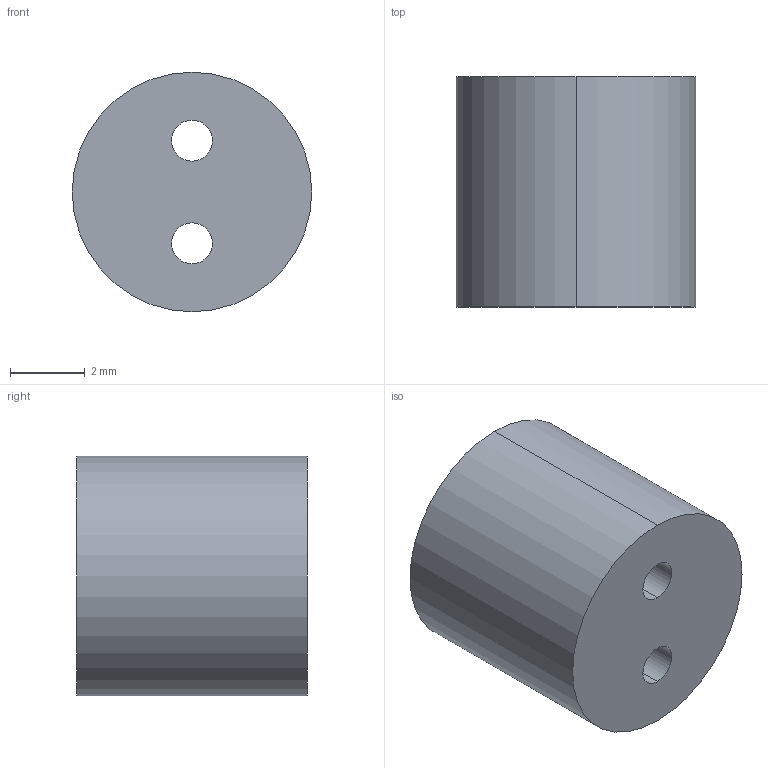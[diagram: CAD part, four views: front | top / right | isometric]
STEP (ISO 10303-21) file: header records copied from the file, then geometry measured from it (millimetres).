
FILE_DESCRIPTION (( 'STEP AP203' ), '1' );
FILE_NAME ('2873001802.STEP', '2019-08-16T14:36:28', ( '' ), ( '' ), 'SwSTEP 2.0', 'SolidWorks 2018', '' );
FILE_SCHEMA (( 'CONFIG_CONTROL_DESIGN' ));
Length unit declared in the file: inch
Products named in the file (1): 2873001802
Bounding box: 6.4 x 6.15 x 6.4 mm (x, y, z)
Volume: 186.3 mm3; surface area: 226.4 mm2
Topology: 1 solids, 1 shells, 8 faces, 18 edges, 12 vertices
Faces by surface type: cylinder 6, plane 2
Entity records: 321 total; most frequent: DIRECTION 48, CARTESIAN_POINT 39, ORIENTED_EDGE 36, AXIS2_PLACEMENT_3D 21, EDGE_CURVE 18, VERTEX_POINT 12, CIRCLE 12, EDGE_LOOP 12
